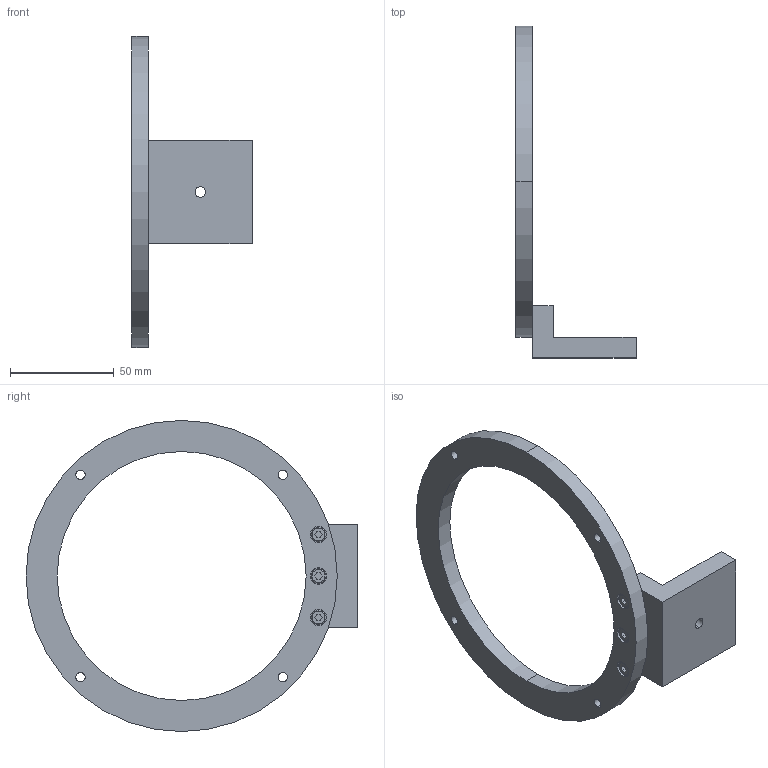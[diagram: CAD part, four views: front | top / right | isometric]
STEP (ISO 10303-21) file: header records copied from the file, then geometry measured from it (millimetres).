
FILE_DESCRIPTION (( 'STEP AP203' ), '1' );
FILE_NAME ('VS-AD-THV011.STEP', '2021-04-06T01:34:30', ( '' ), ( '' ), 'SwSTEP 2.0', 'SolidWorks 2020', '' );
FILE_SCHEMA (( 'CONFIG_CONTROL_DESIGN' ));
Length unit declared in the file: millimetre
Products named in the file (1): VS-AD-THV011
Bounding box: 58 x 160 x 150 mm (x, y, z)
Volume: 82365.6 mm3; surface area: 30320.3 mm2
Topology: 5 solids, 5 shells, 99 faces, 228 edges, 148 vertices
Faces by surface type: cylinder 44, plane 43, cone 6, torus 6
Entity records: 2949 total; most frequent: DIRECTION 534, CARTESIAN_POINT 476, ORIENTED_EDGE 456, EDGE_CURVE 228, AXIS2_PLACEMENT_3D 206, VERTEX_POINT 148, EDGE_LOOP 132, VECTOR 122
